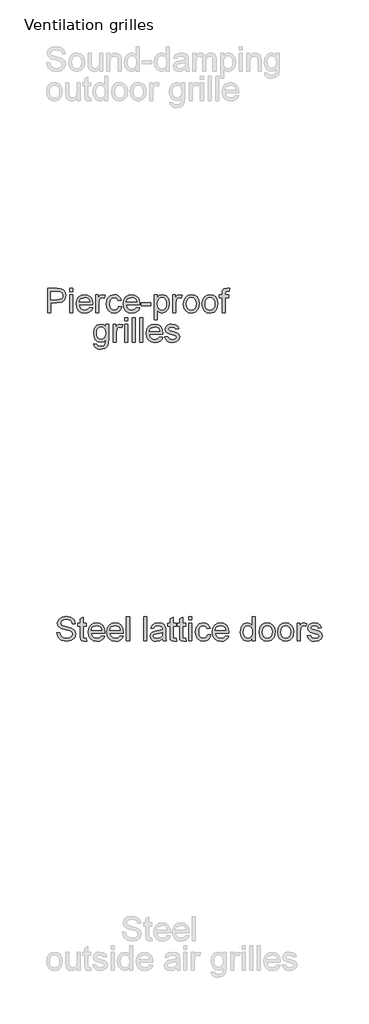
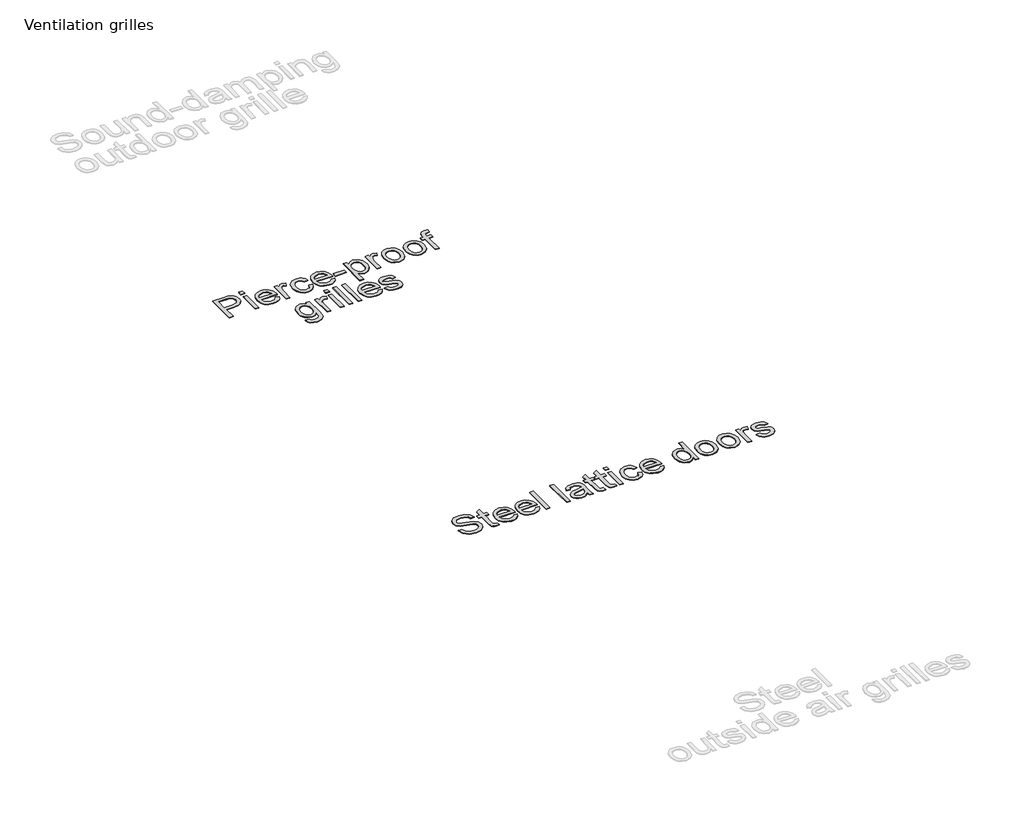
# One storey, part 3 of 10: 2 proxies.
"""IFC4 building model written with IfcOpenShell, lengths in millimetres."""

from ifc_helpers import new_model, si_unit, origin, origin_with_axes, place, context, project, spatial, polyline, outline, extrude, element, save

model = new_model("IFC4")

# Units and contexts
model_context = context("Model", 3, world=origin())
ifc_project = project(units=[si_unit("LENGTHUNIT", "METRE", prefix="MILLI")], contexts=[model_context])

# Site, building, storey
site = spatial("IfcSite", under=ifc_project)
building = spatial("IfcBuilding", under=site)
storey = spatial("IfcBuildingStorey", under=building, Name="Ventilation grilles", Elevation=0.0)

# Proxies
placement = place(None, origin())
element("IfcBuildingElementProxy", 1, Name="100mm", ObjectType="100mm", at=placement, inside=storey, context=model_context, shape_type="SweptSolid", body=[
    extrude(outline(polyline([(-4899.2261189, -12738.6108609), (-4886.6690802, -12738.6108609), (-4882.6223782, -12751.1801624), (-4872.7386153, -12759.1264135), (-4857.679979, -12762.1553085), (-4844.5588545, -12759.8621774), (-4836.0853058, -12753.5591326), (-4833.3016654, -12745.1346349), (-4835.38633, -12737.2987484), (-4843.9211923, -12731.5965775), (-4862.2049275, -12726.8018488), (-4881.8866142, -12720.6091686), (-4892.5674548, -12711.2649659), (-4896.0868592, -12698.7815035), (-4891.733589, -12684.5689958), (-4879.0171347, -12674.53808), (-4860.4023057, -12671.1167775), (-4840.536678, -12674.6974956), (-4827.2929261, -12685.2189206), (-4822.3142565, -12700.9397446), (-4834.8712952, -12700.9397446), (-4837.1766891, -12693.4472146), (-4841.9836805, -12688.0393493), (-4859.9117964, -12683.6738162), (-4877.8889632, -12687.9902983), (-4883.5298205, -12698.4136215), (-4879.5321695, -12707.1201621), (-4859.0288796, -12714.1344454), (-4836.8088071, -12720.4374903), (-4824.6564385, -12730.6155588), (-4820.7446266, -12744.8158038), (-4825.2450497, -12759.837652), (-4838.1944959, -12770.8005354), (-4857.1894696, -12774.7123473), (-4879.6180086, -12770.4939671), (-4893.8059909, -12757.7897755), (-4899.2261189, -12738.6108609)])), origin_with_axes(), (0.0, 0.0, 1.0), 2.0),
    extrude(outline(polyline([(-4776.7949909, -12762.6703433), (-4775.2253611, -12773.5105995), (-4784.6186147, -12774.7123473), (-4795.1400398, -12772.6276827), (-4800.3884896, -12767.1585037), (-4801.9090685, -12752.9092077), (-4801.9090685, -12711.9271535), (-4811.3268476, -12711.9271535), (-4811.3268476, -12699.3701147), (-4801.9090685, -12699.3701147), (-4801.9090685, -12681.4419988), (-4789.3520297, -12674.0598334), (-4789.3520297, -12699.3701147), (-4776.7949909, -12699.3701147), (-4776.7949909, -12711.9271535), (-4789.3520297, -12711.9271535), (-4789.3520297, -12752.5413257), (-4788.6898421, -12759.0160489), (-4786.5438638, -12761.30918), (-4782.2641699, -12762.1553085), (-4776.7949909, -12762.6703433)])), origin_with_axes(), (0.0, 0.0, 1.0), 2.0),
    extrude(outline(polyline([(-4712.5873201, -12751.1678996), (-4700.2755359, -12752.7375295), (-4704.7115797, -12762.0142871), (-4711.7902424, -12768.9488627), (-4721.3521086, -12773.2714762), (-4733.2377627, -12774.7123473), (-4747.9714366, -12772.2260782), (-4759.3083334, -12764.7672707), (-4766.5372146, -12752.8203029), (-4768.9468417, -12736.8695527), (-4766.5126892, -12720.382308), (-4759.2102316, -12708.0521298), (-4748.0266189, -12700.3633961), (-4733.9490012, -12697.8004849), (-4720.3097763, -12700.3572647), (-4709.4112722, -12708.0276043), (-4702.2651644, -12720.3332571), (-4699.8831285, -12736.7959763), (-4699.9567049, -12740.1804907), (-4756.3898029, -12740.1804907), (-4754.2162335, -12749.5798757), (-4749.1670531, -12756.4899258), (-4741.8799239, -12760.7389629), (-4732.9925081, -12762.1553085), (-4720.6807239, -12759.5310836), (-4712.5873201, -12751.1678996)]), holes=[polyline([(-4756.3898029, -12727.6234519), (-4712.4401673, -12727.6234519), (-4717.4678879, -12716.2436355), (-4724.7887396, -12711.8290516), (-4733.9980522, -12710.3575236), (-4749.4613587, -12715.0541504), (-4754.3265981, -12720.5447892), (-4756.3898029, -12727.6234519)])]), origin_with_axes(), (0.0, 0.0, 1.0), 2.0),
    extrude(outline(polyline([(-4635.6754576, -12751.1678996), (-4623.3636735, -12752.7375295), (-4627.7997172, -12762.0142871), (-4634.8783799, -12768.9488627), (-4644.4402461, -12773.2714762), (-4656.3259003, -12774.7123473), (-4671.0595742, -12772.2260782), (-4682.396471, -12764.7672707), (-4689.6253522, -12752.8203029), (-4692.0349793, -12736.8695527), (-4689.6008267, -12720.382308), (-4682.2983691, -12708.0521298), (-4671.1147565, -12700.3633961), (-4657.0371388, -12697.8004849), (-4643.3979138, -12700.3572647), (-4632.4994097, -12708.0276043), (-4625.3533019, -12720.3332571), (-4622.971266, -12736.7959763), (-4623.0448424, -12740.1804907), (-4679.4779405, -12740.1804907), (-4677.304371, -12749.5798757), (-4672.2551906, -12756.4899258), (-4664.9680615, -12760.7389629), (-4656.0806456, -12762.1553085), (-4643.7688615, -12759.5310836), (-4635.6754576, -12751.1678996)]), holes=[polyline([(-4679.4779405, -12727.6234519), (-4635.5283048, -12727.6234519), (-4640.5560254, -12716.2436355), (-4647.8768771, -12711.8290516), (-4657.0861897, -12710.3575236), (-4672.5494962, -12715.0541504), (-4677.4147356, -12720.5447892), (-4679.4779405, -12727.6234519)])]), origin_with_axes(), (0.0, 0.0, 1.0), 2.0),
    extrude(outline(polyline([(-4610.4142273, -12773.1427175), (-4610.4142273, -12672.6864073), (-4597.8571885, -12672.6864073), (-4597.8571885, -12773.1427175), (-4610.4142273, -12773.1427175)])), origin_with_axes(), (0.0, 0.0, 1.0), 2.0),
    extrude(outline(polyline([(-4539.7808842, -12773.1427175), (-4539.7808842, -12672.6864073), (-4527.2238454, -12672.6864073), (-4527.2238454, -12773.1427175), (-4539.7808842, -12773.1427175)])), origin_with_axes(), (0.0, 0.0, 1.0), 2.0),
    extrude(outline(polyline([(-4461.2993919, -12763.7249384), (-4473.4762859, -12772.2352752), (-4486.9285042, -12774.7123473), (-4497.4223381, -12773.2224252), (-4505.1631884, -12768.752659), (-4509.9364573, -12761.9652362), (-4511.527547, -12753.5223444), (-4509.1240513, -12743.5895305), (-4502.8087437, -12736.3790434), (-4494.016364, -12732.2587651), (-4483.1515824, -12730.3703042), (-4461.3729683, -12726.0538221), (-4461.2993919, -12723.2579189), (-4464.7574826, -12713.9872926), (-4478.6388966, -12710.3575236), (-4491.3430882, -12712.7732821), (-4497.4008783, -12721.3449325), (-4509.9579171, -12719.7753027), (-4504.5255263, -12707.5125695), (-4493.5871683, -12700.3266079), (-4477.0202158, -12697.8004849), (-4461.8021639, -12700.0323023), (-4453.205988, -12705.6363714), (-4449.3554898, -12714.1589709), (-4448.7423531, -12725.1463798), (-4448.7423531, -12740.7691019), (-4448.104691, -12762.5845042), (-4445.6030934, -12773.1427175), (-4458.1601322, -12773.1427175), (-4461.2993919, -12763.7249384)]), holes=[polyline([(-4461.2993919, -12738.6108609), (-4481.5574271, -12742.4613591), (-4492.360895, -12744.4969728), (-4497.2537255, -12747.8079107), (-4498.9705082, -12752.6394276), (-4495.2303746, -12759.4329818), (-4484.2552284, -12762.1553085), (-4471.5510368, -12759.1509389), (-4463.3595311, -12751.8791381), (-4461.3729683, -12742.1670535), (-4461.2993919, -12738.6108609)])]), origin_with_axes(), (0.0, 0.0, 1.0), 2.0),
    extrude(outline(polyline([(-4404.7927174, -12762.6703433), (-4403.2230876, -12773.5105995), (-4412.6163412, -12774.7123473), (-4423.1377662, -12772.6276827), (-4428.386216, -12767.1585037), (-4429.906795, -12752.9092077), (-4429.906795, -12711.9271535), (-4439.324574, -12711.9271535), (-4439.324574, -12699.3701147), (-4429.906795, -12699.3701147), (-4429.906795, -12681.4419988), (-4417.3497562, -12674.0598334), (-4417.3497562, -12699.3701147), (-4404.7927174, -12699.3701147), (-4404.7927174, -12711.9271535), (-4417.3497562, -12711.9271535), (-4417.3497562, -12752.5413257), (-4416.6875686, -12759.0160489), (-4414.5415903, -12761.30918), (-4410.2618964, -12762.1553085), (-4404.7927174, -12762.6703433)])), origin_with_axes(), (0.0, 0.0, 1.0), 2.0),
    extrude(outline(polyline([(-4365.5519713, -12762.6703433), (-4363.9823414, -12773.5105995), (-4373.375595, -12774.7123473), (-4383.8970201, -12772.6276827), (-4389.1454699, -12767.1585037), (-4390.6660488, -12752.9092077), (-4390.6660488, -12711.9271535), (-4400.0838279, -12711.9271535), (-4400.0838279, -12699.3701147), (-4390.6660488, -12699.3701147), (-4390.6660488, -12681.4419988), (-4378.10901, -12674.0598334), (-4378.10901, -12699.3701147), (-4365.5519713, -12699.3701147), (-4365.5519713, -12711.9271535), (-4378.10901, -12711.9271535), (-4378.10901, -12752.5413257), (-4377.4468224, -12759.0160489), (-4375.3008441, -12761.30918), (-4371.0211503, -12762.1553085), (-4365.5519713, -12762.6703433)])), origin_with_axes(), (0.0, 0.0, 1.0), 2.0),
    extrude(outline(polyline([(-4352.9949325, -12685.2434461), (-4352.9949325, -12672.6864073), (-4340.4378937, -12672.6864073), (-4340.4378937, -12685.2434461), (-4352.9949325, -12685.2434461)])), origin_with_axes(), (0.0, 0.0, 1.0), 2.0),
    extrude(outline(polyline([(-4352.9949325, -12773.1427175), (-4352.9949325, -12699.3701147), (-4340.4378937, -12699.3701147), (-4340.4378937, -12773.1427175), (-4352.9949325, -12773.1427175)])), origin_with_axes(), (0.0, 0.0, 1.0), 2.0),
    extrude(outline(polyline([(-4274.5134402, -12746.4590101), (-4261.9564014, -12748.0286399), (-4265.4574117, -12759.1969242), (-4272.0363681, -12767.6367503), (-4281.0740024, -12772.9434481), (-4291.9510468, -12774.7123473), (-4305.3082289, -12772.2444723), (-4315.7530119, -12764.8408471), (-4322.4944494, -12752.8264343), (-4324.7415953, -12736.5261962), (-4320.9033598, -12715.6672871), (-4309.2047123, -12702.2641197), (-4292.122725, -12697.8004849), (-4281.5123952, -12699.3333265), (-4273.0296495, -12703.9318514), (-4266.9442681, -12711.350805), (-4263.5260313, -12721.3449325), (-4276.08307, -12722.9145624), (-4281.9078683, -12713.5090461), (-4292.0246232, -12710.3575236), (-4300.1394868, -12711.9087594), (-4306.5804874, -12716.5624666), (-4310.7835392, -12724.5700314), (-4312.1845565, -12736.1828397), (-4310.8141961, -12747.9519979), (-4306.7031148, -12755.9871538), (-4300.3786101, -12760.6132699), (-4292.3679797, -12762.1553085), (-4280.5344422, -12758.3048103), (-4274.5134402, -12746.4590101)])), origin_with_axes(), (0.0, 0.0, 1.0), 2.0),
    extrude(outline(polyline([(-4199.3183604, -12751.1678996), (-4187.0065763, -12752.7375295), (-4191.44262, -12762.0142871), (-4198.5212827, -12768.9488627), (-4208.0831489, -12773.2714762), (-4219.968803, -12774.7123473), (-4234.702477, -12772.2260782), (-4246.0393738, -12764.7672707), (-4253.268255, -12752.8203029), (-4255.677882, -12736.8695527), (-4253.2437295, -12720.382308), (-4245.9412719, -12708.0521298), (-4234.7576593, -12700.3633961), (-4220.6800416, -12697.8004849), (-4207.0408166, -12700.3572647), (-4196.1423125, -12708.0276043), (-4188.9962047, -12720.3332571), (-4186.6141688, -12736.7959763), (-4186.6877452, -12740.1804907), (-4243.1208433, -12740.1804907), (-4240.9472738, -12749.5798757), (-4235.8980934, -12756.4899258), (-4228.6109642, -12760.7389629), (-4219.7235484, -12762.1553085), (-4207.4117643, -12759.5310836), (-4199.3183604, -12751.1678996)]), holes=[polyline([(-4243.1208433, -12727.6234519), (-4199.1712076, -12727.6234519), (-4204.1989282, -12716.2436355), (-4211.5197799, -12711.8290516), (-4220.7290925, -12710.3575236), (-4236.192399, -12715.0541504), (-4241.0576384, -12720.5447892), (-4243.1208433, -12727.6234519)])]), origin_with_axes(), (0.0, 0.0, 1.0), 2.0),
    extrude(outline(polyline([(-4089.2971184, -12773.1427175), (-4089.2971184, -12761.2969172), (-4097.6051201, -12771.3584898), (-4109.0891697, -12774.7123473), (-4124.6383154, -12769.856305), (-4135.6257243, -12756.3059848), (-4139.5252734, -12736.3299925), (-4135.9322926, -12716.3417374), (-4125.1656129, -12702.5829508), (-4109.1382206, -12697.8004849), (-4097.5622005, -12701.2217874), (-4089.2971184, -12710.112269), (-4089.2971184, -12672.6864073), (-4076.7400796, -12672.6864073), (-4076.7400796, -12773.1427175), (-4089.2971184, -12773.1427175)]), holes=[polyline([(-4126.9682347, -12736.2809416), (-4125.551889, -12747.6392982), (-4121.3028519, -12755.7173736), (-4115.1285658, -12760.5458248), (-4107.9364728, -12762.1553085), (-4100.7474455, -12760.6194012), (-4094.7295092, -12756.0116792), (-4090.6552161, -12748.2463034), (-4089.2971184, -12737.2374347), (-4090.6797415, -12725.2015621), (-4094.827611, -12716.8567722), (-4100.9988315, -12711.9823358), (-4108.4515076, -12710.3575236), (-4115.717177, -12711.9179564), (-4121.6707339, -12716.5992548), (-4125.6438595, -12724.6405421), (-4126.9682347, -12736.2809416)])]), origin_with_axes(), (0.0, 0.0, 1.0), 2.0),
    extrude(outline(polyline([(-4061.0437811, -12736.2564161), (-4058.3275857, -12718.4693216), (-4050.1789995, -12705.9674652), (-4040.1112956, -12699.8422299), (-4028.0570289, -12697.8004849), (-4014.8653937, -12700.286754), (-4004.3286402, -12707.7455615), (-3997.4216557, -12719.588296), (-3995.1193276, -12735.2263465), (-3999.190555, -12757.5690463), (-4011.048618, -12770.2119242), (-4028.0570289, -12774.7123473), (-4041.4080796, -12772.2352752), (-4051.9325704, -12764.8040589), (-4058.7659784, -12752.713004), (-4061.0437811, -12736.2564161)]), holes=[polyline([(-4048.4867424, -12736.2318906), (-4047.0336085, -12747.5963786), (-4042.6742068, -12755.6928482), (-4036.1136446, -12760.5396935), (-4028.0570289, -12762.1553085), (-4020.0372014, -12760.5304964), (-4013.4889019, -12755.65606), (-4009.1295002, -12747.4522915), (-4007.6763664, -12735.8394832), (-4009.1386973, -12724.806089), (-4013.5256901, -12716.819984), (-4020.0831866, -12711.9731387), (-4028.0570289, -12710.3575236), (-4036.1136446, -12711.9670074), (-4042.6742068, -12716.7954585), (-4047.0336085, -12724.873534), (-4048.4867424, -12736.2318906)])]), origin_with_axes(), (0.0, 0.0, 1.0), 2.0),
    extrude(outline(polyline([(-3984.1319187, -12736.2564161), (-3981.4157233, -12718.4693216), (-3973.2671371, -12705.9674652), (-3963.1994331, -12699.8422299), (-3951.1451664, -12697.8004849), (-3937.9535312, -12700.286754), (-3927.4167777, -12707.7455615), (-3920.5097933, -12719.588296), (-3918.2074651, -12735.2263465), (-3922.2786925, -12757.5690463), (-3934.1367555, -12770.2119242), (-3951.1451664, -12774.7123473), (-3964.4962172, -12772.2352752), (-3975.0207079, -12764.8040589), (-3981.854116, -12752.713004), (-3984.1319187, -12736.2564161)]), holes=[polyline([(-3971.5748799, -12736.2318906), (-3970.121746, -12747.5963786), (-3965.7623444, -12755.6928482), (-3959.2017821, -12760.5396935), (-3951.1451664, -12762.1553085), (-3943.1253389, -12760.5304964), (-3936.5770394, -12755.65606), (-3932.2176378, -12747.4522915), (-3930.7645039, -12735.8394832), (-3932.2268348, -12724.806089), (-3936.6138276, -12716.819984), (-3943.1713242, -12711.9731387), (-3951.1451664, -12710.3575236), (-3959.2017821, -12711.9670074), (-3965.7623444, -12716.7954585), (-3970.121746, -12724.873534), (-3971.5748799, -12736.2318906)])]), origin_with_axes(), (0.0, 0.0, 1.0), 2.0),
    extrude(outline(polyline([(-3904.0807965, -12773.1427175), (-3904.0807965, -12699.3701147), (-3893.0933876, -12699.3701147), (-3893.0933876, -12710.2839472), (-3885.2942893, -12700.228506), (-3877.4461401, -12697.8004849), (-3864.8400504, -12701.6755085), (-3869.0339051, -12712.9326976), (-3877.863073, -12710.3575236), (-3884.9631955, -12712.8345957), (-3889.488144, -12719.7017263), (-3891.5237578, -12734.3679552), (-3891.5237578, -12773.1427175), (-3904.0807965, -12773.1427175)])), origin_with_axes(), (0.0, 0.0, 1.0), 2.0),
    extrude(outline(polyline([(-3861.7007907, -12751.1678996), (-3849.1437519, -12749.5982698), (-3843.3312164, -12758.917947), (-3830.0138882, -12762.1553085), (-3817.2115947, -12759.1877271), (-3813.0422654, -12752.2224947), (-3817.2361202, -12746.5816374), (-3830.161041, -12743.0009193), (-3849.0701755, -12736.85729), (-3857.3229949, -12729.6835911), (-3860.1311608, -12719.5545735), (-3857.8748179, -12710.1981081), (-3851.7189259, -12703.0489347), (-3843.7358866, -12699.3333265), (-3832.9324187, -12697.8004849), (-3817.6530531, -12700.2652942), (-3807.9409684, -12706.9362211), (-3803.6244864, -12718.2056729), (-3816.1815251, -12719.7753027), (-3820.9026774, -12712.8468585), (-3831.9514, -12710.3575236), (-3843.9688785, -12712.7364939), (-3847.5741221, -12718.2792493), (-3846.0780686, -12721.9335437), (-3841.3937045, -12724.7049214), (-3830.5779739, -12727.3781973), (-3812.1470859, -12733.2888347), (-3803.5876982, -12739.984287), (-3800.4852267, -12750.8981195), (-3804.1272584, -12762.915598), (-3814.6364208, -12771.6344013), (-3830.1855664, -12774.7123473), (-3842.8468384, -12773.2285566), (-3852.0868079, -12768.7771845), (-3858.2549627, -12761.4072818), (-3861.7007907, -12751.1678996)])), origin_with_axes(), (0.0, 0.0, 1.0), 2.0),
])
element("IfcBuildingElementProxy", 2, Name="100mm", ObjectType="100mm", at=placement, inside=storey, context=model_context, shape_type="SweptSolid", body=[
    extrude(outline(polyline([(-4936.6466552, -11414.230195), (-4936.6466552, -11313.7738848), (-4899.4169973, -11313.7738848), (-4884.4074119, -11314.730378), (-4872.2059924, -11319.4270048), (-4864.2965295, -11329.1390895), (-4861.3044226, -11342.8365625), (-4863.3247079, -11354.6762313), (-4869.3855638, -11364.5416002), (-4880.7193949, -11371.2002643), (-4898.558606, -11373.419819), (-4924.0896165, -11373.419819), (-4924.0896165, -11414.230195), (-4936.6466552, -11414.230195)]), holes=[polyline([(-4924.0896165, -11360.8627802), (-4897.822842, -11360.8627802), (-4879.3306404, -11356.2519925), (-4875.2287561, -11350.7031058), (-4873.8614614, -11343.2780208), (-4877.0865602, -11332.8792231), (-4885.5601088, -11327.1893149), (-4898.1171476, -11326.3309236), (-4924.0896165, -11326.3309236), (-4924.0896165, -11360.8627802)])]), origin_with_axes(), (0.0, 0.0, 1.0), 2.0),
    extrude(outline(polyline([(-4845.6081241, -11414.230195), (-4845.6081241, -11340.4575922), (-4833.0510854, -11340.4575922), (-4833.0510854, -11414.230195), (-4845.6081241, -11414.230195)])), origin_with_axes(), (0.0, 0.0, 1.0), 2.0),
    extrude(outline(polyline([(-4845.6081241, -11326.3309236), (-4845.6081241, -11313.7738848), (-4833.0510854, -11313.7738848), (-4833.0510854, -11326.3309236), (-4845.6081241, -11326.3309236)])), origin_with_axes(), (0.0, 0.0, 1.0), 2.0),
    extrude(outline(polyline([(-4762.5648951, -11392.2553771), (-4750.253111, -11393.825007), (-4754.6891547, -11403.1017646), (-4761.7678174, -11410.0363402), (-4771.3296836, -11414.3589537), (-4783.2153378, -11415.7998248), (-4797.9490117, -11413.3135557), (-4809.2859085, -11405.8547482), (-4816.5147897, -11393.9077804), (-4818.9244168, -11377.9570303), (-4816.4902642, -11361.4697855), (-4809.1878066, -11349.1396073), (-4798.004194, -11341.4508736), (-4783.9265763, -11338.8879624), (-4770.2873513, -11341.4447422), (-4759.3888472, -11349.1150818), (-4752.2427395, -11361.4207346), (-4749.8607035, -11377.8834539), (-4749.9342799, -11381.2679682), (-4806.367378, -11381.2679682), (-4804.1938085, -11390.6673532), (-4799.1446282, -11397.5774033), (-4791.857499, -11401.8264404), (-4782.9700831, -11403.2427861), (-4770.658299, -11400.6185612), (-4762.5648951, -11392.2553771)]), holes=[polyline([(-4806.367378, -11368.7109294), (-4762.4177423, -11368.7109294), (-4767.4454629, -11357.3311131), (-4774.7663146, -11352.9165291), (-4783.9756272, -11351.4450011), (-4799.4389338, -11356.1416279), (-4804.3041731, -11361.6322667), (-4806.367378, -11368.7109294)])]), origin_with_axes(), (0.0, 0.0, 1.0), 2.0),
    extrude(outline(polyline([(-4737.3036648, -11414.230195), (-4737.3036648, -11340.4575922), (-4726.3162558, -11340.4575922), (-4726.3162558, -11351.3714247), (-4718.5171575, -11341.3159835), (-4710.6690083, -11338.8879624), (-4698.0629186, -11342.7629861), (-4702.2567734, -11354.0201751), (-4711.0859412, -11351.4450011), (-4718.1860638, -11353.9220732), (-4722.7110123, -11360.7892038), (-4724.746626, -11375.4554327), (-4724.746626, -11414.230195), (-4737.3036648, -11414.230195)])), origin_with_axes(), (0.0, 0.0, 1.0), 2.0),
    extrude(outline(polyline([(-4643.125874, -11387.5464876), (-4630.5688352, -11389.1161174), (-4634.0698456, -11400.2844017), (-4640.6488019, -11408.7242278), (-4649.6864362, -11414.0309256), (-4660.5634806, -11415.7998248), (-4673.9206627, -11413.3319498), (-4684.3654457, -11405.9283246), (-4691.1068832, -11393.9139118), (-4693.3540291, -11377.6136737), (-4689.5157936, -11356.7547646), (-4677.8171461, -11343.3515972), (-4660.7351588, -11338.8879624), (-4650.124829, -11340.420804), (-4641.6420833, -11345.019329), (-4635.556702, -11352.4382825), (-4632.1384651, -11362.4324101), (-4644.6955038, -11364.0020399), (-4650.5203021, -11354.5965236), (-4660.637057, -11351.4450011), (-4668.7519206, -11352.9962369), (-4675.1929212, -11357.6499441), (-4679.395973, -11365.6575089), (-4680.7969903, -11377.2703172), (-4679.4266299, -11389.0394754), (-4675.3155486, -11397.0746313), (-4668.9910439, -11401.7007474), (-4660.9804135, -11403.2427861), (-4649.146876, -11399.3922878), (-4643.125874, -11387.5464876)])), origin_with_axes(), (0.0, 0.0, 1.0), 2.0),
    extrude(outline(polyline([(-4567.9307942, -11392.2553771), (-4555.6190101, -11393.825007), (-4560.0550538, -11403.1017646), (-4567.1337165, -11410.0363402), (-4576.6955827, -11414.3589537), (-4588.5812369, -11415.7998248), (-4603.3149108, -11413.3135557), (-4614.6518076, -11405.8547482), (-4621.8806888, -11393.9077804), (-4624.2903158, -11377.9570303), (-4621.8561633, -11361.4697855), (-4614.5537057, -11349.1396073), (-4603.3700931, -11341.4508736), (-4589.2924754, -11338.8879624), (-4575.6532504, -11341.4447422), (-4564.7547463, -11349.1150818), (-4557.6086385, -11361.4207346), (-4555.2266026, -11377.8834539), (-4555.300179, -11381.2679682), (-4611.7332771, -11381.2679682), (-4609.5597076, -11390.6673532), (-4604.5105272, -11397.5774033), (-4597.2233981, -11401.8264404), (-4588.3359822, -11403.2427861), (-4576.0241981, -11400.6185612), (-4567.9307942, -11392.2553771)]), holes=[polyline([(-4611.7332771, -11368.7109294), (-4567.7836414, -11368.7109294), (-4572.811362, -11357.3311131), (-4580.1322137, -11352.9165291), (-4589.3415263, -11351.4450011), (-4604.8048328, -11356.1416279), (-4609.6700722, -11361.6322667), (-4611.7332771, -11368.7109294)])]), origin_with_axes(), (0.0, 0.0, 1.0), 2.0),
    extrude(outline(polyline([(-4548.9480832, -11384.4072279), (-4548.9480832, -11371.8501891), (-4509.7073371, -11371.8501891), (-4509.7073371, -11384.4072279), (-4548.9480832, -11384.4072279)])), origin_with_axes(), (0.0, 0.0, 1.0), 2.0),
    extrude(outline(polyline([(-4495.5806685, -11442.4835322), (-4495.5806685, -11340.4575922), (-4483.0236297, -11340.4575922), (-4483.0236297, -11352.7693763), (-4474.3416146, -11342.3583159), (-4462.6184417, -11338.8879624), (-4446.701414, -11343.7440047), (-4436.3026163, -11357.4292149), (-4432.7954746, -11376.7798079), (-4436.7563374, -11397.1236822), (-4448.2587812, -11410.9805707), (-4464.1390206, -11415.7998248), (-4475.0651159, -11412.574726), (-4483.0236297, -11404.4200084), (-4483.0236297, -11442.4835322), (-4495.5806685, -11442.4835322)]), holes=[polyline([(-4483.0236297, -11377.9325048), (-4481.665532, -11389.1896938), (-4477.5912389, -11397.0623685), (-4471.579434, -11401.6976817), (-4464.4088007, -11403.2427861), (-4457.1216716, -11401.6424994), (-4450.9565825, -11396.8416393), (-4446.7535307, -11388.6807904), (-4445.3525134, -11377.0005371), (-4446.7198081, -11365.8046617), (-4450.8216924, -11357.8216224), (-4456.8243003, -11353.0391565), (-4463.893766, -11351.4450011), (-4470.9908228, -11353.140324), (-4477.2233569, -11358.2262926), (-4481.5735615, -11366.5434914), (-4483.0236297, -11377.9325048)])]), origin_with_axes(), (0.0, 0.0, 1.0), 2.0),
    extrude(outline(polyline([(-4418.668806, -11414.230195), (-4418.668806, -11340.4575922), (-4407.6813971, -11340.4575922), (-4407.6813971, -11351.3714247), (-4399.8822988, -11341.3159835), (-4392.0341496, -11338.8879624), (-4379.4280599, -11342.7629861), (-4383.6219146, -11354.0201751), (-4392.4510825, -11351.4450011), (-4399.551205, -11353.9220732), (-4404.0761535, -11360.7892038), (-4406.1117672, -11375.4554327), (-4406.1117672, -11414.230195), (-4418.668806, -11414.230195)])), origin_with_axes(), (0.0, 0.0, 1.0), 2.0),
    extrude(outline(polyline([(-4374.7191703, -11377.3438936), (-4372.0029749, -11359.5567991), (-4363.8543887, -11347.0549427), (-4353.7866848, -11340.9297074), (-4341.7324181, -11338.8879624), (-4328.5407829, -11341.3742315), (-4318.0040294, -11348.833039), (-4311.0970449, -11360.6757735), (-4308.7947168, -11376.313824), (-4312.8659442, -11398.6565239), (-4324.7240072, -11411.2994018), (-4341.7324181, -11415.7998248), (-4355.0834688, -11413.3227527), (-4365.6079596, -11405.8915364), (-4372.4413676, -11393.8004815), (-4374.7191703, -11377.3438936)]), holes=[polyline([(-4362.1621316, -11377.3193681), (-4360.7089977, -11388.6838561), (-4356.349596, -11396.7803257), (-4349.7890338, -11401.627171), (-4341.7324181, -11403.2427861), (-4333.7125906, -11401.6179739), (-4327.1642911, -11396.7435375), (-4322.8048894, -11388.539769), (-4321.3517556, -11376.9269607), (-4322.8140865, -11365.8935665), (-4327.2010793, -11357.9074615), (-4333.7585758, -11353.0606162), (-4341.7324181, -11351.4450011), (-4349.7890338, -11353.0544849), (-4356.349596, -11357.8829361), (-4360.7089977, -11365.9610115), (-4362.1621316, -11377.3193681)])]), origin_with_axes(), (0.0, 0.0, 1.0), 2.0),
    extrude(outline(polyline([(-4297.8073079, -11377.3438936), (-4295.0911125, -11359.5567991), (-4286.9425263, -11347.0549427), (-4276.8748223, -11340.9297074), (-4264.8205556, -11338.8879624), (-4251.6289204, -11341.3742315), (-4241.0921669, -11348.833039), (-4234.1851825, -11360.6757735), (-4231.8828543, -11376.313824), (-4235.9540817, -11398.6565239), (-4247.8121447, -11411.2994018), (-4264.8205556, -11415.7998248), (-4278.1716064, -11413.3227527), (-4288.6960971, -11405.8915364), (-4295.5295052, -11393.8004815), (-4297.8073079, -11377.3438936)]), holes=[polyline([(-4285.2502691, -11377.3193681), (-4283.7971352, -11388.6838561), (-4279.4377336, -11396.7803257), (-4272.8771713, -11401.627171), (-4264.8205556, -11403.2427861), (-4256.8007281, -11401.6179739), (-4250.2524286, -11396.7435375), (-4245.893027, -11388.539769), (-4244.4398931, -11376.9269607), (-4245.902224, -11365.8935665), (-4250.2892168, -11357.9074615), (-4256.8467134, -11353.0606162), (-4264.8205556, -11351.4450011), (-4272.8771713, -11353.0544849), (-4279.4377336, -11357.8829361), (-4283.7971352, -11365.9610115), (-4285.2502691, -11377.3193681)])]), origin_with_axes(), (0.0, 0.0, 1.0), 2.0),
    extrude(outline(polyline([(-4214.616926, -11414.230195), (-4214.616926, -11353.014631), (-4225.6043349, -11353.014631), (-4225.6043349, -11340.4575922), (-4214.616926, -11340.4575922), (-4214.616926, -11333.0263759), (-4213.2925508, -11322.5540018), (-4206.8668787, -11315.0737346), (-4194.211738, -11312.204255), (-4182.7583452, -11313.5776811), (-4184.5977552, -11325.349905), (-4191.8327678, -11324.7612938), (-4199.7422307, -11326.8459584), (-4202.0598873, -11334.6205312), (-4202.0598873, -11340.4575922), (-4187.9332186, -11340.4575922), (-4187.9332186, -11353.014631), (-4202.0598873, -11353.014631), (-4202.0598873, -11414.230195), (-4214.616926, -11414.230195)])), origin_with_axes(), (0.0, 0.0, 1.0), 2.0),
    extrude(outline(polyline([(-4745.151814, -11542.4835322), (-4732.5947752, -11544.0531621), (-4728.5235478, -11550.675038), (-4716.334391, -11553.4709411), (-4703.4830467, -11550.307156), (-4697.3516801, -11541.4289372), (-4696.4932888, -11526.7872338), (-4705.3347194, -11533.8505681), (-4716.1136618, -11536.2050128), (-4729.0600424, -11533.464292), (-4738.7138791, -11525.2421294), (-4744.7195527, -11513.1878627), (-4746.7214438, -11498.9508295), (-4743.128463, -11479.4898719), (-4732.7296653, -11465.7188226), (-4716.7267985, -11460.8627802), (-4705.5247918, -11463.6096324), (-4696.4932888, -11471.8501891), (-4696.4932888, -11462.4324101), (-4683.93625, -11462.4324101), (-4683.93625, -11526.1250462), (-4687.3698153, -11550.5156224), (-4698.2468596, -11561.8586506), (-4716.5796457, -11566.0279799), (-4728.2629647, -11564.5595176), (-4737.4630803, -11560.1541307), (-4743.3645206, -11552.7995565), (-4745.151814, -11542.4835322)]), holes=[polyline([(-4734.1644051, -11498.0924381), (-4732.8247015, -11509.6102103), (-4728.8055907, -11517.5288702), (-4722.7631289, -11522.1181981), (-4715.3533724, -11523.6479741), (-4707.9987982, -11522.1273951), (-4701.9256796, -11517.5656584), (-4697.8513865, -11509.748166), (-4696.4932888, -11498.4603201), (-4697.8912404, -11487.5740788), (-4702.0850951, -11479.7351266), (-4708.2471185, -11474.9986459), (-4715.5495761, -11473.419819), (-4722.7202093, -11474.9741204), (-4728.7320143, -11479.6370247), (-4732.8063074, -11487.3594809), (-4734.1644051, -11498.0924381)])]), origin_with_axes(), (0.0, 0.0, 1.0), 2.0),
    extrude(outline(polyline([(-4665.1006918, -11536.2050128), (-4665.1006918, -11462.4324101), (-4654.1132829, -11462.4324101), (-4654.1132829, -11473.3462426), (-4646.3141846, -11463.2908014), (-4638.4660354, -11460.8627802), (-4625.8599457, -11464.7378039), (-4630.0538004, -11475.994993), (-4638.8829683, -11473.419819), (-4645.9830908, -11475.8968911), (-4650.5080394, -11482.7640217), (-4652.5436531, -11497.4302505), (-4652.5436531, -11536.2050128), (-4665.1006918, -11536.2050128)])), origin_with_axes(), (0.0, 0.0, 1.0), 2.0),
    extrude(outline(polyline([(-4618.0117965, -11536.2050128), (-4618.0117965, -11462.4324101), (-4605.4547577, -11462.4324101), (-4605.4547577, -11536.2050128), (-4618.0117965, -11536.2050128)])), origin_with_axes(), (0.0, 0.0, 1.0), 2.0),
    extrude(outline(polyline([(-4618.0117965, -11448.3057414), (-4618.0117965, -11435.7487027), (-4605.4547577, -11435.7487027), (-4605.4547577, -11448.3057414), (-4618.0117965, -11448.3057414)])), origin_with_axes(), (0.0, 0.0, 1.0), 2.0),
    extrude(outline(polyline([(-4586.6191995, -11536.2050128), (-4586.6191995, -11435.7487027), (-4574.0621608, -11435.7487027), (-4574.0621608, -11536.2050128), (-4586.6191995, -11536.2050128)])), origin_with_axes(), (0.0, 0.0, 1.0), 2.0),
    extrude(outline(polyline([(-4555.2266026, -11536.2050128), (-4555.2266026, -11435.7487027), (-4542.6695639, -11435.7487027), (-4542.6695639, -11536.2050128), (-4555.2266026, -11536.2050128)])), origin_with_axes(), (0.0, 0.0, 1.0), 2.0),
    extrude(outline(polyline([(-4472.1833736, -11514.230195), (-4459.8715895, -11515.7998248), (-4464.3076332, -11525.0765825), (-4471.3862959, -11532.0111581), (-4480.9481621, -11536.3337715), (-4492.8338162, -11537.7746427), (-4507.5674901, -11535.2883735), (-4518.904387, -11527.8295661), (-4526.1332682, -11515.8825983), (-4528.5428952, -11499.9318481), (-4526.1087427, -11483.4446034), (-4518.8062851, -11471.1144252), (-4507.6226724, -11463.4256915), (-4493.5450548, -11460.8627802), (-4479.9058298, -11463.4195601), (-4469.0073257, -11471.0898997), (-4461.8612179, -11483.3955524), (-4459.479182, -11499.8582717), (-4459.5527584, -11503.2427861), (-4515.9858565, -11503.2427861), (-4513.812287, -11512.642171), (-4508.7631066, -11519.5522212), (-4501.4759774, -11523.8012582), (-4492.5885616, -11525.2176039), (-4480.2767775, -11522.593379), (-4472.1833736, -11514.230195)]), holes=[polyline([(-4515.9858565, -11490.6857473), (-4472.0362208, -11490.6857473), (-4477.0639414, -11479.3059309), (-4484.3847931, -11474.891347), (-4493.5941057, -11473.419819), (-4509.0574122, -11478.1164458), (-4513.9226516, -11483.6070846), (-4515.9858565, -11490.6857473)])]), origin_with_axes(), (0.0, 0.0, 1.0), 2.0),
    extrude(outline(polyline([(-4451.6310328, -11514.230195), (-4439.073994, -11512.6605651), (-4433.2614585, -11521.9802424), (-4419.9441303, -11525.2176039), (-4407.1418368, -11522.2500225), (-4402.9725076, -11515.28479), (-4407.1663623, -11509.6439328), (-4420.0912831, -11506.0632147), (-4439.0004176, -11499.9195854), (-4447.253237, -11492.7458865), (-4450.0614029, -11482.6168689), (-4447.80506, -11473.2604035), (-4441.649168, -11466.11123), (-4433.6661287, -11462.3956219), (-4422.8626608, -11460.8627802), (-4407.5832952, -11463.3275896), (-4397.8712106, -11469.9985164), (-4393.5547285, -11481.2679682), (-4406.1117672, -11482.8375981), (-4410.8329195, -11475.9091538), (-4421.8816421, -11473.419819), (-4433.8991206, -11475.7987892), (-4437.5043642, -11481.3415446), (-4436.0083107, -11484.9958391), (-4431.3239466, -11487.7672168), (-4420.508216, -11490.4404926), (-4402.077328, -11496.35113), (-4393.5179403, -11503.0465823), (-4390.4154688, -11513.9604149), (-4394.0575005, -11525.9778934), (-4404.5666629, -11534.6966967), (-4420.1158085, -11537.7746427), (-4432.7770805, -11536.290852), (-4442.01705, -11531.8394798), (-4448.1852048, -11524.4695772), (-4451.6310328, -11514.230195)])), origin_with_axes(), (0.0, 0.0, 1.0), 2.0),
])

save(model, "model.ifc")
